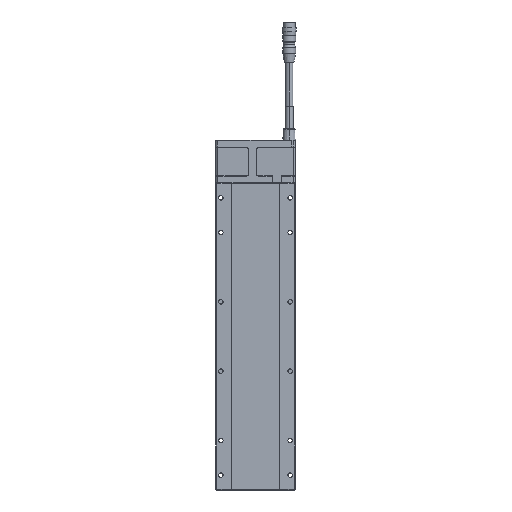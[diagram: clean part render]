
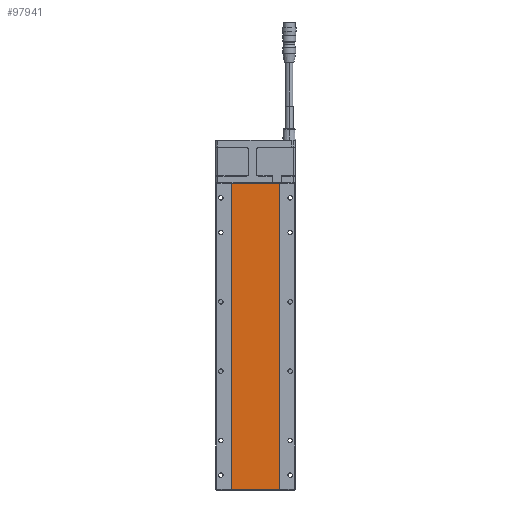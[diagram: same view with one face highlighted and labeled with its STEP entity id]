
A CAD part, front view. The second image highlights one B-rep face of the part: STEP entity #97941.
In plain terms, the highlighted planar face has unit normal (0, -1, 0).
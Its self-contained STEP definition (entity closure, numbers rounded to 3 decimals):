
#1998 = LINE ( 'NONE', #75796, #106955 ) ;
#2608 = DIRECTION ( 'NONE',  ( -1., 0., 0. ) ) ;
#3727 = ORIENTED_EDGE ( 'NONE', *, *, #64275, .T. ) ;
#13080 = CARTESIAN_POINT ( 'NONE',  ( -24.3, 0.5, 0.2 ) ) ;
#13632 = VECTOR ( 'NONE', #117106, 1000. ) ;
#19155 = CARTESIAN_POINT ( 'NONE',  ( -24.3, 0.5, 0.2 ) ) ;
#20740 = DIRECTION ( 'NONE',  ( 1., 0., 0. ) ) ;
#31018 = DIRECTION ( 'NONE',  ( -1., 0., 0. ) ) ;
#33802 = EDGE_CURVE ( 'NONE', #46575, #95876, #1998, .T. ) ;
#37581 = VERTEX_POINT ( 'NONE', #105372 ) ;
#40310 = DIRECTION ( 'NONE',  ( 0., 1., 0. ) ) ;
#41844 = EDGE_LOOP ( 'NONE', ( #3727, #87461, #66522, #105108 ) ) ;
#42120 = PLANE ( 'NONE',  #100314 ) ;
#46575 = VERTEX_POINT ( 'NONE', #62732 ) ;
#50240 = FACE_OUTER_BOUND ( 'NONE', #41844, .T. ) ;
#50766 = LINE ( 'NONE', #107219, #13632 ) ;
#50860 = CARTESIAN_POINT ( 'NONE',  ( -24.3, 0.5, 309.8 ) ) ;
#57984 = EDGE_CURVE ( 'NONE', #37581, #46575, #50766, .T. ) ;
#61990 = DIRECTION ( 'NONE',  ( 0., 0., -1. ) ) ;
#62732 = CARTESIAN_POINT ( 'NONE',  ( 24.3, 0.5, 309.8 ) ) ;
#64275 = EDGE_CURVE ( 'NONE', #95876, #78045, #98039, .T. ) ;
#66522 = ORIENTED_EDGE ( 'NONE', *, *, #57984, .T. ) ;
#68487 = LINE ( 'NONE', #87102, #75746 ) ;
#73998 = VECTOR ( 'NONE', #61990, 1000. ) ;
#75746 = VECTOR ( 'NONE', #20740, 1000. ) ;
#75796 = CARTESIAN_POINT ( 'NONE',  ( -24.3, 0.5, 309.8 ) ) ;
#78045 = VERTEX_POINT ( 'NONE', #19155 ) ;
#87102 = CARTESIAN_POINT ( 'NONE',  ( -24.3, 0.5, 0.2 ) ) ;
#87461 = ORIENTED_EDGE ( 'NONE', *, *, #119685, .T. ) ;
#95876 = VERTEX_POINT ( 'NONE', #107822 ) ;
#97941 = ADVANCED_FACE ( 'NONE', ( #50240 ), #42120, .F. ) ;
#98039 = LINE ( 'NONE', #13080, #73998 ) ;
#100314 = AXIS2_PLACEMENT_3D ( 'NONE', #50860, #40310, #31018 ) ;
#105108 = ORIENTED_EDGE ( 'NONE', *, *, #33802, .T. ) ;
#105372 = CARTESIAN_POINT ( 'NONE',  ( 24.3, 0.5, 0.2 ) ) ;
#106955 = VECTOR ( 'NONE', #2608, 1000. ) ;
#107219 = CARTESIAN_POINT ( 'NONE',  ( 24.3, 0.5, 0.2 ) ) ;
#107822 = CARTESIAN_POINT ( 'NONE',  ( -24.3, 0.5, 309.8 ) ) ;
#117106 = DIRECTION ( 'NONE',  ( 0., 0., 1. ) ) ;
#119685 = EDGE_CURVE ( 'NONE', #78045, #37581, #68487, .T. ) ;
